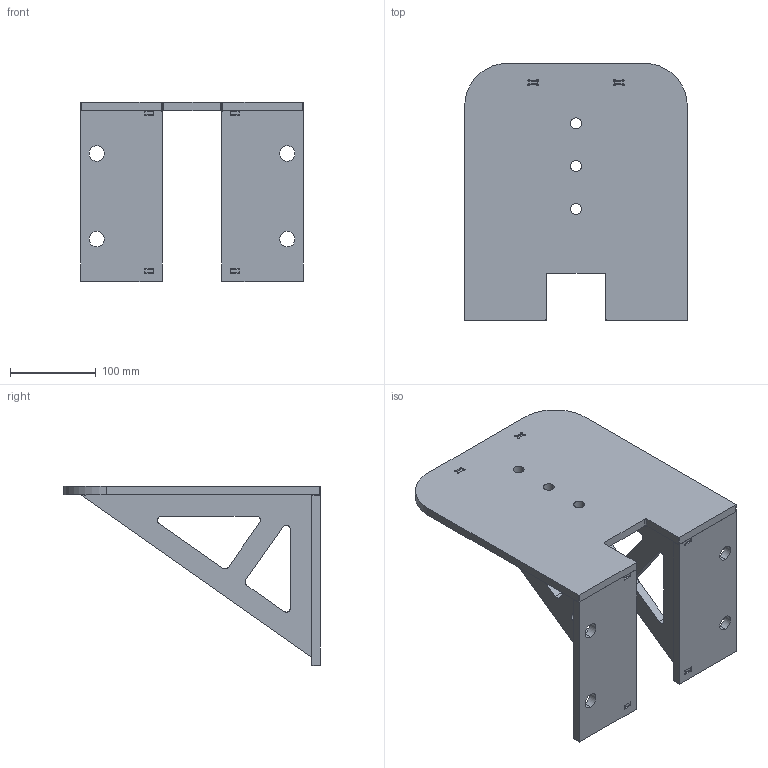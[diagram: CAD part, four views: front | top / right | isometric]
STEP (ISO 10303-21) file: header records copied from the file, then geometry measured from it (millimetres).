
FILE_DESCRIPTION (( 'STEP AP203' ), '1' );
FILE_NAME ('Baugruppe KTP-S-260.STEP', '2025-05-07T09:25:17', ( '' ), ( '' ), 'SwSTEP 2.0', 'SolidWorks 2024', '' );
FILE_SCHEMA (( 'CONFIG_CONTROL_DESIGN' ));
Length unit declared in the file: millimetre
Products named in the file (4): Versteifungsblech KTP-S-260; Frontplatte KTP-S-260; Baugruppe KTP-S-260; Fussplatte KTP-S-260
Assembly tree (5 placements, depth 2):
  Baugruppe KTP-S-260
    Frontplatte KTP-S-260
    Fussplatte KTP-S-260  x2
    Versteifungsblech KTP-S-260  x2
Bounding box: 260 x 300 x 210 mm (x, y, z)
Volume: 1461086.5 mm3; surface area: 348822.8 mm2
Topology: 5 solids, 5 shells, 238 faces, 684 edges, 456 vertices
Faces by surface type: cylinder 154, plane 84
Entity records: 5497 total; most frequent: DIRECTION 939, CARTESIAN_POINT 872, ORIENTED_EDGE 858, EDGE_CURVE 429, AXIS2_PLACEMENT_3D 353, VERTEX_POINT 286, LINE 233, VECTOR 233
